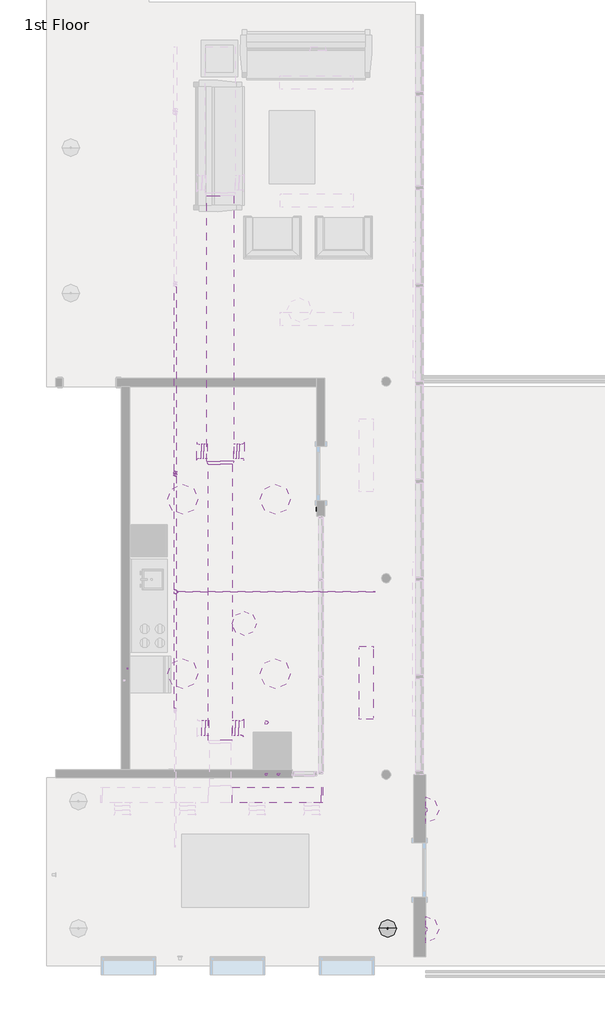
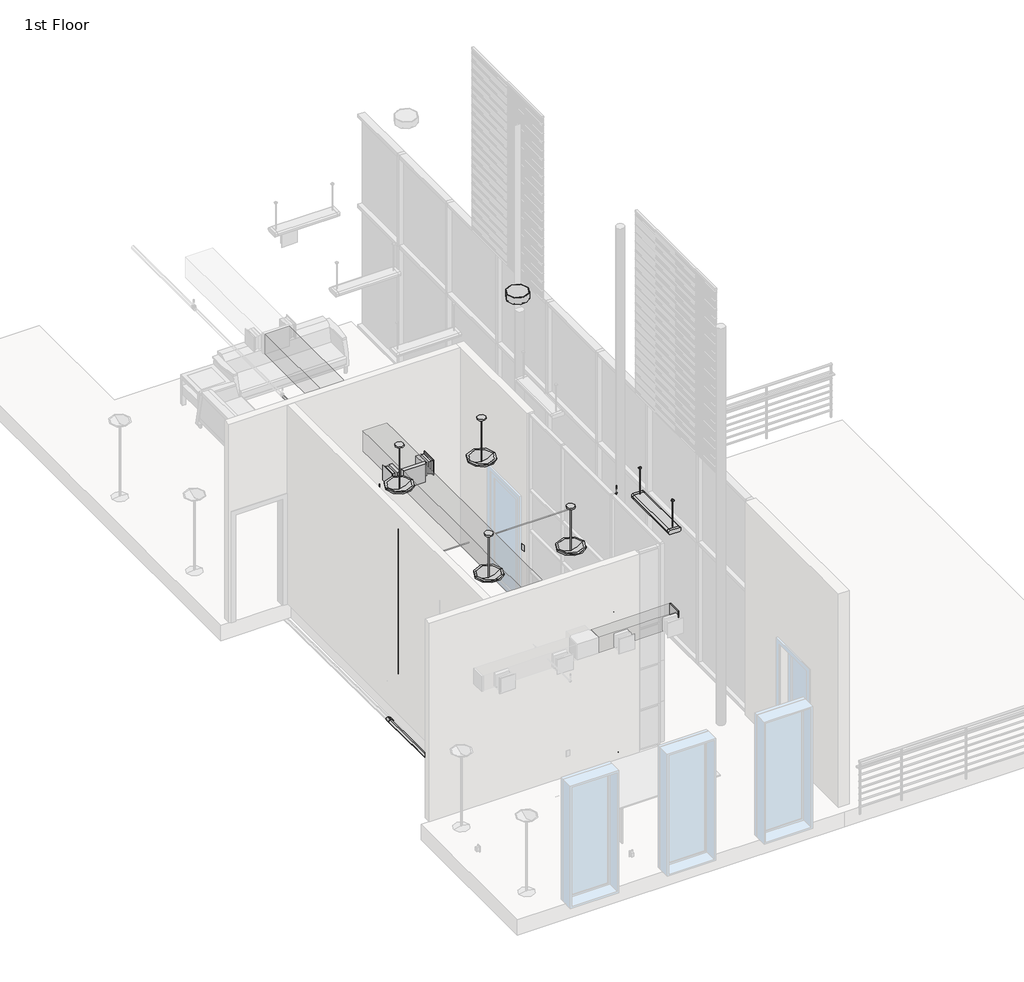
# One storey, part 3 of 4: 23 pipe fittings, 21 pipe segments, 9 light fixtures, 7 duct segments, 6 duct fittings, 3 air terminals, 3 proxies, 2 fire suppression terminals, 2 switching devices.
"""IFC4 building model written with IfcOpenShell, lengths in millimetres."""

from ifc_helpers import new_model, si_unit, point, frame, frame_2d, origin, place, context, project, spatial, polyline, circle_curve, trimmed, segment, composite_curve, outline, extrude, transform, mapped, element, save
from components import air_terminal_37217d21, air_terminal_0139ce82, receptacle_gfci_367a9a66, rectangular_duct_endcap_standard_df86e6dc, rectangular_duct_takeoff_sidewall_standard_8ecd27dc, rectangular_duct_takeoff_sidewall_standard_de4d9739, rectangular_duct_transition_standard_ec693d8a, fire_suppression_terminal_f250fbbb, light_fixture_120v_8a54b260, pendant_light_hemisphere_100w_120v_3_drop_98367d5d, light_fixture_b06bbfae, sconce_light_flat_round_100w_120v_d640190c, sconce_light_uplight_100w_120v_70b3641e, pipe_elbow_standard_3cd342b0, pipe_elbow1_standard_2_1c0ee581, pipe_elbow_standard_aad62f2d, pipe_elbow_standard_a25a5501, pipe_elbow1_standard_2_7266e7d7, pipe_pvc_bend_standard_82aeff72, pipe_pvc_bend_standard_45fed27a, pipe_pvc_short_sanitary_tee_standard_372b41e4, pipe_pvc_short_sanitary_tee1_standard_2_dea4ea5f, pipe_pvc_transition_eccentric1_standard_2_dc0409ef, pipe_pvc_transition_eccentric1_standard_2_7b6d9032, pipe_tee_standard_feafe2f1, pipe_tee_standard_7127fd44, pipe_tee_standard_60c871d1, pipe_transition_eccentric_standard_8de4c794, pipe_transition_eccentric_standard_48f40522, pipe_transition_eccentric_standard_4aeee749

model = new_model("IFC4")

# Units and contexts
model_context = context("Model", 3, world=origin())
ifc_project = project(units=[si_unit("LENGTHUNIT", "METRE", prefix="MILLI")], contexts=[model_context])

# Site, building, storey
site = spatial("IfcSite", under=ifc_project)
building = spatial("IfcBuilding", under=site)
storey = spatial("IfcBuildingStorey", under=building, Name="1st Floor", Elevation=3657.6)

# Air terminals
placement = place(None, origin())
air_terminal_shape = air_terminal_37217d21(model_context)
element("IfcAirTerminal", 1, ObjectType="Sidewall Diffuser : 10\" x 10\"", at=placement, inside=storey, context=model_context, shape_type="MappedRepresentation", body=[
    mapped(air_terminal_shape, transform((-1316.3183044, 1778.9147242, 6400.8), x_axis=(0.0, 1.0, 0.0), y_axis=(-1.0, 0.0, 0.0), z_axis=(0.0, 0.0, 1.0))),
])
element("IfcAirTerminal", 2, ObjectType="Sidewall Diffuser : 10\" x 10\"", at=placement, inside=storey, context=model_context, shape_type="MappedRepresentation", body=[
    mapped(air_terminal_shape, transform((-1323.6793944, -2854.6189983, 6400.8), x_axis=(0.0, 1.0, 0.0), y_axis=(-1.0, 0.0, 0.0), z_axis=(0.0, 0.0, 1.0))),
])
air_terminal_2_shape = air_terminal_0139ce82(model_context)
element("IfcAirTerminal", 3, ObjectType="Sidewall Diffuser : 10\" x 10\"", at=placement, inside=storey, context=model_context, shape_type="MappedRepresentation", body=[
    mapped(air_terminal_2_shape, transform((-2101.4384632, 1778.9147242, 6400.8), x_axis=(0.0, 1.0, 0.0), y_axis=(-1.0, 0.0, 0.0), z_axis=(0.0, 0.0, 1.0))),
])

# Proxies
receptacle_gfci_shape = receptacle_gfci_367a9a66(model_context)
element("IfcBuildingElementProxy", 4, Name="Receptacle : Standard", ObjectType="Receptacle : Standard", at=placement, inside=storey, context=model_context, shape_type="MappedRepresentation", body=[
    mapped(receptacle_gfci_shape, transform((-2536.6439612, 3000.0810017, 4114.8), x_axis=(-1.0, 0.0, 0.0), y_axis=(0.0, 0.0, 1.0), z_axis=(0.0, 1.0, 0.0))),
])
element("IfcBuildingElementProxy", 5, Name="Receptacle : Standard", ObjectType="Receptacle : Standard", at=placement, inside=storey, context=model_context, shape_type="MappedRepresentation", body=[
    mapped(receptacle_gfci_shape, transform((-3228.7939612, 1863.4310017, 4114.8), x_axis=(0.0, 1.0, 0.0), y_axis=(0.0, 0.0, 1.0), z_axis=(1.0, 0.0, 0.0))),
])
element("IfcBuildingElementProxy", 6, Name="Receptacle : Standard", ObjectType="Receptacle : Standard", at=placement, inside=storey, context=model_context, shape_type="MappedRepresentation", body=[
    mapped(receptacle_gfci_shape, transform((-3228.788311, -773.6284402, 4875.9916082), x_axis=(0.0, 1.0, 0.0), y_axis=(0.0, 0.0, 1.0), z_axis=(1.0, 0.0, 0.0))),
])

# Duct fittings
rectangular_duct_endcap_standard_shape = rectangular_duct_endcap_standard_df86e6dc(model_context)
element("IfcDuctFitting", 7, ObjectType="Rectangular Duct Endcap : Standard", at=placement, inside=storey, context=model_context, shape_type="MappedRepresentation", body=[
    mapped(rectangular_duct_endcap_standard_shape, transform((-18.8104947, -3978.5689983, 6400.8), x_axis=(1.0, 0.0, 0.0), y_axis=(0.0, 1.0, 0.0), z_axis=(0.0, 0.0, 1.0))),
])
rectangular_duct_takeoff_sidewall_standard_shape = rectangular_duct_takeoff_sidewall_standard_8ecd27dc(model_context)
element("IfcDuctFitting", 8, ObjectType="Rectangular Duct Takeoff - Sidewall : Standard", at=placement, inside=storey, context=model_context, shape_type="MappedRepresentation", body=[
    mapped(rectangular_duct_takeoff_sidewall_standard_shape, transform((-1480.2783838, 1778.9147242, 6400.8), x_axis=(1.0, 0.0, 0.0), y_axis=(0.0, -1.0, 0.0), z_axis=(0.0, 0.0, -1.0))),
])
element("IfcDuctFitting", 9, ObjectType="Rectangular Duct Takeoff - Sidewall : Standard", at=placement, inside=storey, context=model_context, shape_type="MappedRepresentation", body=[
    mapped(rectangular_duct_takeoff_sidewall_standard_shape, transform((-1505.6783838, -2854.6189983, 6400.8), x_axis=(1.0, 0.0, 0.0), y_axis=(0.0, -1.0, 0.0), z_axis=(0.0, 0.0, -1.0))),
])
rectangular_duct_takeoff_sidewall_standard_2_shape = rectangular_duct_takeoff_sidewall_standard_de4d9739(model_context)
element("IfcDuctFitting", 10, ObjectType="Rectangular Duct Takeoff - Sidewall : Standard", at=placement, inside=storey, context=model_context, shape_type="MappedRepresentation", body=[
    mapped(rectangular_duct_takeoff_sidewall_standard_2_shape, transform((-1912.0783838, -2854.6189983, 6400.8), x_axis=(-1.0, 0.0, 0.0), y_axis=(0.0, 1.0, 0.0), z_axis=(0.0, 0.0, -1.0))),
])
element("IfcDuctFitting", 11, ObjectType="Rectangular Duct Takeoff - Sidewall : Standard", at=placement, inside=storey, context=model_context, shape_type="MappedRepresentation", body=[
    mapped(rectangular_duct_takeoff_sidewall_standard_2_shape, transform((-1937.4783838, 1778.9147242, 6400.8), x_axis=(-1.0, 0.0, 0.0), y_axis=(0.0, 1.0, 0.0), z_axis=(0.0, 0.0, -1.0))),
])
rectangular_duct_transition_standard_shape = rectangular_duct_transition_standard_ec693d8a(model_context)
element("IfcDuctFitting", 12, ObjectType="Rectangular Duct Transition : Standard", at=placement, inside=storey, context=model_context, shape_type="MappedRepresentation", body=[
    mapped(rectangular_duct_transition_standard_shape, transform((-1708.8783838, 1612.3737868, 6400.8), x_axis=(0.0, -1.0, 0.0), y_axis=(1.0, 0.0, 0.0), z_axis=(0.0, 0.0, 1.0))),
])

# Duct segments
element("IfcDuctSegment", 13, ObjectType="Mitered Elbows / Taps", at=placement, inside=storey, context=model_context, shape_type="SweptSolid", body=[
    extrude(outline(polyline([(-1937.4783838, 6057.3737868), (-1480.2783838, 6057.3737868), (-1480.2783838, 1612.3737868), (-1937.4783838, 1612.3737868), (-1937.4783838, 6057.3737868)])), frame((0.0, 0.0, 6197.6), z_axis=(0.0, 0.0, 1.0), x_axis=(1.0, 0.0, 0.0)), (0.0, 0.0, 1.0), 406.4),
])
element("IfcDuctSegment", 14, ObjectType="Mitered Elbows / Taps", at=placement, inside=storey, context=model_context, shape_type="SweptSolid", body=[
    extrude(outline(polyline([(-1912.0783838, 1561.5737868), (-1505.6783838, 1561.5737868), (-1505.6783838, -3061.2262132), (-1912.0783838, -3061.2262132), (-1912.0783838, 1561.5737868)])), frame((0.0, 0.0, 6223.0), z_axis=(0.0, 0.0, 1.0), x_axis=(1.0, 0.0, 0.0)), (0.0, 0.0, 1.0), 355.6),
])
element("IfcDuctSegment", 15, ObjectType="Mitered Elbows / Taps Sidewall", at=placement, inside=storey, context=model_context, shape_type="SweptSolid", body=[
    extrude(outline(polyline([(-1429.4783838, 1651.9147242), (-1429.4783838, 1905.9147242), (-1392.5183044, 1905.9147242), (-1392.5183044, 1651.9147242), (-1429.4783838, 1651.9147242)])), frame((0.0, 0.0, 6273.8), z_axis=(0.0, 0.0, 1.0), x_axis=(1.0, 0.0, 0.0)), (0.0, 0.0, 1.0), 254.0),
])
element("IfcDuctSegment", 16, ObjectType="Mitered Elbows / Taps Sidewall", at=placement, inside=storey, context=model_context, shape_type="SweptSolid", body=[
    extrude(outline(polyline([(-2017.8773731, -2981.6189983), (-2017.8773731, -2727.6189983), (-1962.8783838, -2727.6189983), (-1962.8783838, -2981.6189983), (-2017.8773731, -2981.6189983)])), frame((0.0, 0.0, 6273.8), z_axis=(0.0, 0.0, 1.0), x_axis=(1.0, 0.0, 0.0)), (0.0, 0.0, 1.0), 254.0),
])
element("IfcDuctSegment", 17, ObjectType="Mitered Elbows / Taps Sidewall", at=placement, inside=storey, context=model_context, shape_type="SweptSolid", body=[
    extrude(outline(polyline([(-1399.8793944, -2727.6189983), (-1399.8793944, -2981.6189983), (-1454.8783838, -2981.6189983), (-1454.8783838, -2727.6189983), (-1399.8793944, -2727.6189983)])), frame((0.0, 0.0, 6273.8), z_axis=(0.0, 0.0, 1.0), x_axis=(1.0, 0.0, 0.0)), (0.0, 0.0, 1.0), 254.0),
])
element("IfcDuctSegment", 18, ObjectType="Mitered Elbows / Taps Sidewall", at=placement, inside=storey, context=model_context, shape_type="SweptSolid", body=[
    extrude(outline(polyline([(-1988.2783838, 1905.9147242), (-1988.2783838, 1651.9147242), (-2025.2384632, 1651.9147242), (-2025.2384632, 1905.9147242), (-1988.2783838, 1905.9147242)])), frame((0.0, 0.0, 6273.8), z_axis=(0.0, 0.0, 1.0), x_axis=(1.0, 0.0, 0.0)), (0.0, 0.0, 1.0), 254.0),
])
element("IfcDuctSegment", 19, ObjectType="Radius Elbows / Tees", at=placement, inside=storey, context=model_context, shape_type="SweptSolid", body=[
    extrude(outline(polyline([(-1505.6783838, -4105.5689983), (-1505.6783838, -3851.5689983), (-18.8104947, -3851.5689983), (-18.8104947, -4105.5689983), (-1505.6783838, -4105.5689983)])), frame((0.0, 0.0, 6248.4), z_axis=(0.0, 0.0, 1.0), x_axis=(1.0, 0.0, 0.0)), (0.0, 0.0, 1.0), 304.8),
])

# Fire suppression terminals
fire_suppression_terminal_shape = fire_suppression_terminal_f250fbbb(model_context)
element("IfcFireSuppressionTerminal", 20, ObjectType="Sprinkler - Upright : 1/2\" Upright", at=placement, inside=storey, context=model_context, shape_type="MappedRepresentation", body=[
    mapped(fire_suppression_terminal_shape, transform((-2463.5604947, 1406.2310017, 6553.2), x_axis=(1.0, 0.0, 0.0), y_axis=(0.0, 1.0, 0.0), z_axis=(0.0, 0.0, 1.0))),
])
element("IfcFireSuppressionTerminal", 21, ObjectType="Sprinkler - Upright : 1/2\" Upright", at=placement, inside=storey, context=model_context, shape_type="MappedRepresentation", body=[
    mapped(fire_suppression_terminal_shape, transform((866.9560388, -574.9689983, 6553.2), x_axis=(1.0, 0.0, 0.0), y_axis=(0.0, 1.0, 0.0), z_axis=(0.0, 0.0, 1.0))),
])

# Light fixtures
light_fixture_120v_shape = light_fixture_120v_8a54b260(model_context)
element("IfcLightFixture", 22, ObjectType="Floor Lamp - Torchiere : 120V", at=placement, inside=storey, context=model_context, shape_type="MappedRepresentation", body=[
    mapped(light_fixture_120v_shape, transform((1095.5560388, -6213.7689983, 3657.6), x_axis=(1.0, 0.0, 0.0), y_axis=(0.0, 1.0, 0.0), z_axis=(0.0, 0.0, 1.0))),
])
pendant_light_hemisphere_100w_120v_3_drop_shape = pendant_light_hemisphere_100w_120v_3_drop_98367d5d(model_context)
element("IfcLightFixture", 23, ObjectType="Pendant Light - Hemisphere : 100W - 120V - 3' Drop", at=placement, inside=storey, context=model_context, shape_type="MappedRepresentation", body=[
    mapped(pendant_light_hemisphere_100w_120v_3_drop_shape, transform((-2336.5604947, 974.4310017, 7620.0), x_axis=(1.0, 0.0, 0.0), y_axis=(0.0, -1.0, 0.0), z_axis=(0.0, 0.0, -1.0))),
])
element("IfcLightFixture", 24, ObjectType="Pendant Light - Hemisphere : 100W - 120V - 3' Drop", at=placement, inside=storey, context=model_context, shape_type="MappedRepresentation", body=[
    mapped(pendant_light_hemisphere_100w_120v_3_drop_shape, transform((-787.1604947, 974.4310017, 7620.0), x_axis=(1.0, 0.0, 0.0), y_axis=(0.0, -1.0, 0.0), z_axis=(0.0, 0.0, -1.0))),
])
element("IfcLightFixture", 25, ObjectType="Pendant Light - Hemisphere : 100W - 120V - 3' Drop", at=placement, inside=storey, context=model_context, shape_type="MappedRepresentation", body=[
    mapped(pendant_light_hemisphere_100w_120v_3_drop_shape, transform((-2336.5604947, -1946.5689983, 7620.0), x_axis=(1.0, 0.0, 0.0), y_axis=(0.0, -1.0, 0.0), z_axis=(0.0, 0.0, -1.0))),
])
element("IfcLightFixture", 26, ObjectType="Pendant Light - Hemisphere : 100W - 120V - 3' Drop", at=placement, inside=storey, context=model_context, shape_type="MappedRepresentation", body=[
    mapped(pendant_light_hemisphere_100w_120v_3_drop_shape, transform((-787.1604947, -1946.5689983, 7620.0), x_axis=(1.0, 0.0, 0.0), y_axis=(0.0, -1.0, 0.0), z_axis=(0.0, 0.0, -1.0))),
])
light_fixture_shape = light_fixture_b06bbfae(model_context)
element("IfcLightFixture", 27, ObjectType="Pendant Light - Linear - 2 Lamp : 48\" - 120V", at=placement, inside=storey, context=model_context, shape_type="MappedRepresentation", body=[
    mapped(light_fixture_shape, transform((736.8395053, -2098.9689983, 7620.0), x_axis=(0.0, -1.0, 0.0), y_axis=(-1.0, 0.0, 0.0), z_axis=(0.0, 0.0, -1.0))),
])
sconce_light_flat_round_100w_120v_shape = sconce_light_flat_round_100w_120v_d640190c(model_context)
element("IfcLightFixture", 28, ObjectType="Sconce Light - Flat Round : 60W - 120V", at=placement, inside=storey, context=model_context, shape_type="MappedRepresentation", body=[
    mapped(sconce_light_flat_round_100w_120v_shape, transform((-1306.9998743, -1107.0471, 11582.4), x_axis=(-1.0, 0.0, 0.0), y_axis=(0.0, 1.0, 0.0), z_axis=(0.0, 0.0, -1.0))),
])
sconce_light_uplight_100w_120v_shape = sconce_light_uplight_100w_120v_70b3641e(model_context)
element("IfcLightFixture", 29, ObjectType="Sconce Light - Uplight : 100W - 120V", at=placement, inside=storey, context=model_context, shape_type="MappedRepresentation", body=[
    mapped(sconce_light_uplight_100w_120v_shape, transform((1730.5560388, -4232.5689983, 5588.0), x_axis=(0.0, 1.0, 0.0), y_axis=(0.0, 0.0, 1.0), z_axis=(1.0, 0.0, 0.0))),
])
element("IfcLightFixture", 30, ObjectType="Sconce Light - Uplight : 100W - 120V", at=placement, inside=storey, context=model_context, shape_type="MappedRepresentation", body=[
    mapped(sconce_light_uplight_100w_120v_shape, transform((1730.5560388, -6227.340357, 5588.0), x_axis=(0.0, 1.0, 0.0), y_axis=(0.0, 0.0, 1.0), z_axis=(1.0, 0.0, 0.0))),
])

# Pipe fittings
pipe_elbow_standard_shape = pipe_elbow_standard_3cd342b0(model_context)
element("IfcPipeFitting", 31, ObjectType="Pipe Elbow : Standard", at=placement, inside=storey, context=model_context, shape_type="MappedRepresentation", body=[
    mapped(pipe_elbow_standard_shape, transform((-3324.0439612, -706.809107, 4388.4453125), x_axis=(0.0, 0.0, -1.0), y_axis=(1.0, 0.0, 0.0), z_axis=(0.0, -1.0, 0.0))),
])
pipe_elbow1_standard_2_shape = pipe_elbow1_standard_2_1c0ee581(model_context)
element("IfcPipeFitting", 32, ObjectType="Pipe Elbow1 : Standard 2", at=placement, inside=storey, context=model_context, shape_type="MappedRepresentation", body=[
    mapped(pipe_elbow1_standard_2_shape, transform((-835.4540974, -3638.7114839, 3759.7608866), x_axis=(0.0, 0.0, 1.0), y_axis=(0.0, 1.0, 0.0), z_axis=(-1.0, 0.0, 0.0))),
])
pipe_elbow_standard_2_shape = pipe_elbow_standard_aad62f2d(model_context)
element("IfcPipeFitting", 33, ObjectType="Pipe Elbow1 : Standard 2", at=placement, inside=storey, context=model_context, shape_type="MappedRepresentation", body=[
    mapped(pipe_elbow_standard_2_shape, transform((-3260.5439612, -503.609107, 4388.6291082), x_axis=(0.0, 0.0, -1.0), y_axis=(1.0, 0.0, 0.0), z_axis=(0.0, -1.0, 0.0))),
])
element("IfcPipeFitting", 34, ObjectType="Pipe Elbow1 : Standard 2", at=placement, inside=storey, context=model_context, shape_type="MappedRepresentation", body=[
    mapped(pipe_elbow_standard_2_shape, transform((-3260.5439612, -1861.6991823, 3962.4), x_axis=(0.0, 0.0, -1.0), y_axis=(1.0, 0.0, 0.0), z_axis=(0.0, -1.0, 0.0))),
])
element("IfcPipeFitting", 35, ObjectType="Pipe Elbow1 : Standard 2", at=placement, inside=storey, context=model_context, shape_type="MappedRepresentation", body=[
    mapped(pipe_elbow_standard_2_shape, transform((-3260.5439612, -1861.6991823, 6604.0), x_axis=(0.0, 0.0, 1.0), y_axis=(0.0, 1.0, 0.0), z_axis=(-1.0, 0.0, 0.0))),
])
element("IfcPipeFitting", 36, ObjectType="Pipe Elbow1 : Standard 2", at=placement, inside=storey, context=model_context, shape_type="MappedRepresentation", body=[
    mapped(pipe_elbow_standard_2_shape, transform((866.9560388, -574.9689983, 6451.6), x_axis=(0.0, 0.0, -1.0), y_axis=(-1.0, 0.0, 0.0), z_axis=(0.0, 1.0, 0.0))),
])
pipe_elbow_standard_3_shape = pipe_elbow_standard_a25a5501(model_context)
element("IfcPipeFitting", 37, ObjectType="Pipe Elbow1 : Standard 2", at=placement, inside=storey, context=model_context, shape_type="MappedRepresentation", body=[
    mapped(pipe_elbow_standard_3_shape, transform((-937.0514215, -3636.540357, 4267.2), x_axis=(0.0, 0.0, -1.0), y_axis=(0.0, 1.0, 0.0), z_axis=(1.0, 0.0, 0.0))),
])
element("IfcPipeFitting", 38, ObjectType="Pipe Elbow1 : Standard 2", at=placement, inside=storey, context=model_context, shape_type="MappedRepresentation", body=[
    mapped(pipe_elbow_standard_3_shape, transform((-733.8514215, -3636.540357, 6705.6), x_axis=(0.0, 0.0, 1.0), y_axis=(0.0, 1.0, 0.0), z_axis=(-1.0, 0.0, 0.0))),
])
element("IfcPipeFitting", 39, ObjectType="Pipe Elbow1 : Standard 2", at=placement, inside=storey, context=model_context, shape_type="MappedRepresentation", body=[
    mapped(pipe_elbow_standard_3_shape, transform((-733.8514215, -3636.540357, 4267.2), x_axis=(0.0, 0.0, -1.0), y_axis=(0.0, 1.0, 0.0), z_axis=(1.0, 0.0, 0.0))),
])
element("IfcPipeFitting", 40, ObjectType="Pipe Elbow1 : Standard 2", at=placement, inside=storey, context=model_context, shape_type="MappedRepresentation", body=[
    mapped(pipe_elbow_standard_3_shape, transform((-937.0514215, -3636.540357, 6604.0), x_axis=(0.0, 0.0, 1.0), y_axis=(0.0, 1.0, 0.0), z_axis=(-1.0, 0.0, 0.0))),
])
pipe_elbow1_standard_2_2_shape = pipe_elbow1_standard_2_7266e7d7(model_context)
element("IfcPipeFitting", 41, ObjectType="Pipe Elbow1 : Standard 2", at=placement, inside=storey, context=model_context, shape_type="MappedRepresentation", body=[
    mapped(pipe_elbow1_standard_2_2_shape, transform((-835.4540926, -3638.7114887, 3321.5687312), x_axis=(0.0, 0.0, -1.0), y_axis=(-0.9999999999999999, 0.0, 0.0), z_axis=(0.0, 0.9999999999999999, 0.0))),
])
pipe_pvc_bend_standard_shape = pipe_pvc_bend_standard_82aeff72(model_context)
element("IfcPipeFitting", 42, ObjectType="Pipe PVC Bend : Standard", at=placement, inside=storey, context=model_context, shape_type="MappedRepresentation", body=[
    mapped(pipe_pvc_bend_standard_shape, transform((-3298.6295589, -1960.1220659, 3759.2), x_axis=(0.0, 0.0, 1.0), y_axis=(1.0, 0.0, 0.0), z_axis=(0.0, 1.0, 0.0))),
])
pipe_pvc_bend_standard_2_shape = pipe_pvc_bend_standard_45fed27a(model_context)
element("IfcPipeFitting", 43, ObjectType="Pipe PVC Bend : Standard", at=placement, inside=storey, context=model_context, shape_type="MappedRepresentation", body=[
    mapped(pipe_pvc_bend_standard_2_shape, transform((-2860.488311, -367.0681536, 3266.362851), x_axis=(0.0, 0.0, -1.0), y_axis=(-1.0, 0.0, 0.0), z_axis=(0.0, 1.0, 0.0))),
])
pipe_pvc_short_sanitary_tee_standard_shape = pipe_pvc_short_sanitary_tee_standard_372b41e4(model_context)
element("IfcPipeFitting", 44, ObjectType="Pipe PVC Short Sanitary Tee : Standard", at=placement, inside=storey, context=model_context, shape_type="MappedRepresentation", body=[
    mapped(pipe_pvc_short_sanitary_tee_standard_shape, transform((-3298.6295637, -367.0681536, 3261.7988826), x_axis=(0.0, -0.9999457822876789, 0.010413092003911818), y_axis=(0.9999618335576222, 9.097695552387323e-05, 0.00873631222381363), z_axis=(-0.008736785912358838, 0.010412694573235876, 0.9999076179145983))),
])
pipe_pvc_short_sanitary_tee1_standard_2_shape = pipe_pvc_short_sanitary_tee1_standard_2_dea4ea5f(model_context)
element("IfcPipeFitting", 45, ObjectType="Pipe PVC Short Sanitary Tee1 : Standard 2", at=placement, inside=storey, context=model_context, shape_type="MappedRepresentation", body=[
    mapped(pipe_pvc_short_sanitary_tee1_standard_2_shape, transform((-3298.6295637, -1960.1220707, 3278.3883991), x_axis=(0.0, -0.9999457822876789, 0.010413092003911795), y_axis=(0.0, 0.010413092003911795, 0.9999457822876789), z_axis=(-1.0, 0.0, 0.0))),
])
pipe_pvc_transition_eccentric1_standard_2_shape = pipe_pvc_transition_eccentric1_standard_2_dc0409ef(model_context)
element("IfcPipeFitting", 46, ObjectType="Pipe PVC Transition Eccentric1 : Standard 2", at=placement, inside=storey, context=model_context, shape_type="MappedRepresentation", body=[
    mapped(pipe_pvc_transition_eccentric1_standard_2_shape, transform((-2772.032811, -367.0681536, 3309.195963), x_axis=(0.0, 0.0, -1.0), y_axis=(1.0, 0.0, 0.0), z_axis=(0.0, -1.0, 0.0))),
])
pipe_pvc_transition_eccentric1_standard_2_2_shape = pipe_pvc_transition_eccentric1_standard_2_7b6d9032(model_context)
element("IfcPipeFitting", 47, ObjectType="Pipe PVC Transition Eccentric1 : Standard 2", at=placement, inside=storey, context=model_context, shape_type="MappedRepresentation", body=[
    mapped(pipe_pvc_transition_eccentric1_standard_2_2_shape, transform((-3239.8924279, -287.6974568, 3261.4855646), x_axis=(0.9999618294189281, 0.0, 0.008737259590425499), y_axis=(9.097841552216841e-05, 0.9999457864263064, -0.010412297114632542), z_axis=(-0.008736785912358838, 0.010412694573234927, 0.9999076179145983))),
])
pipe_tee_standard_shape = pipe_tee_standard_feafe2f1(model_context)
element("IfcPipeFitting", 48, ObjectType="Pipe Tee : Standard", at=placement, inside=storey, context=model_context, shape_type="MappedRepresentation", body=[
    mapped(pipe_tee_standard_shape, transform((-937.0514215, -2761.2999309, 6604.0), x_axis=(0.0, 1.0, 0.0), y_axis=(-1.0, 0.0, 0.0), z_axis=(0.0, 0.0, 1.0))),
])
pipe_tee_standard_2_shape = pipe_tee_standard_7127fd44(model_context)
element("IfcPipeFitting", 49, ObjectType="Pipe Tee : Standard", at=placement, inside=storey, context=model_context, shape_type="MappedRepresentation", body=[
    mapped(pipe_tee_standard_2_shape, transform((-2463.5604947, 1406.2310017, 6451.6), x_axis=(0.0, -1.0, 0.0), y_axis=(0.0, 0.0, -1.0), z_axis=(1.0, 0.0, 0.0))),
])
pipe_tee_standard_3_shape = pipe_tee_standard_60c871d1(model_context)
element("IfcPipeFitting", 50, ObjectType="Pipe Tee : Standard", at=placement, inside=storey, context=model_context, shape_type="MappedRepresentation", body=[
    mapped(pipe_tee_standard_3_shape, transform((-2463.5604947, -574.9689983, 6451.6), x_axis=(0.0, -1.0, 0.0), y_axis=(-1.0, 0.0, 0.0), z_axis=(0.0, 0.0, -1.0))),
])
pipe_transition_eccentric_standard_shape = pipe_transition_eccentric_standard_8de4c794(model_context)
element("IfcPipeFitting", 51, ObjectType="Pipe Transition Eccentric : Standard", at=placement, inside=storey, context=model_context, shape_type="MappedRepresentation", body=[
    mapped(pipe_transition_eccentric_standard_shape, transform((-2430.2229947, -574.9689983, 6451.6), x_axis=(1.0, 0.0, 0.0), y_axis=(0.0, -1.0, 0.0), z_axis=(0.0, 0.0, -1.0))),
])
pipe_transition_eccentric_standard_2_shape = pipe_transition_eccentric_standard_48f40522(model_context)
element("IfcPipeFitting", 52, ObjectType="Pipe Transition Eccentric : Standard", at=placement, inside=storey, context=model_context, shape_type="MappedRepresentation", body=[
    mapped(pipe_transition_eccentric_standard_2_shape, transform((-2463.5604947, 1369.7185017, 6451.6), x_axis=(0.0, -1.0, 0.0), y_axis=(1.0, 0.0, 0.0), z_axis=(0.0, 0.0, 1.0))),
])
pipe_transition_eccentric_standard_3_shape = pipe_transition_eccentric_standard_4aeee749(model_context)
element("IfcPipeFitting", 53, ObjectType="Pipe Transition Eccentric : Standard", at=placement, inside=storey, context=model_context, shape_type="MappedRepresentation", body=[
    mapped(pipe_transition_eccentric_standard_3_shape, transform((-2463.5604947, 1406.2310017, 6488.1125), x_axis=(0.0, 0.0, 1.0), y_axis=(0.0, -1.0, 0.0), z_axis=(1.0, 0.0, 0.0))),
])

# Pipe segments
element("IfcPipeSegment", 54, ObjectType="PVC", at=placement, inside=storey, context=model_context, shape_type="SweptSolid", body=[
    extrude(outline(composite_curve([segment(trimmed(circle_curve(frame_2d((0.0, -30.1625)), 30.1625), [point((-30.1625, -30.1625))], [point((0.0, 0.0))], False, "CARTESIAN"), True, "CONTINUOUS"), segment(trimmed(circle_curve(frame_2d((0.0, -30.1625)), 30.1625), [point((0.0, 0.0))], [point((30.1625, -30.1625))], False, "CARTESIAN"), True, "CONTINUOUS"), segment(trimmed(circle_curve(frame_2d((0.0, -30.1625)), 30.1625), [point((30.1625, -30.1625))], [point((0.0, -60.325))], False, "CARTESIAN"), True, "CONTINUOUS"), segment(trimmed(circle_curve(frame_2d((0.0, -30.1625)), 30.1625), [point((0.0, -60.325))], [point((-30.1625, -30.1625))], False, "CARTESIAN"), True, "CONTINUOUS")], self_intersect=False)), frame((-3298.6295637, -1990.2845707, 3336.5174121), z_axis=(1.2701688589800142e-08, 1.2698167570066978e-08, 1.0), x_axis=(-1.0, 0.0, 1.2701688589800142e-08)), (0.0, 0.0, 1.0), 376.6450883),
])
element("IfcPipeSegment", 55, ObjectType="PVC", at=placement, inside=storey, context=model_context, shape_type="SweptSolid", body=[
    extrude(outline(composite_curve([segment(trimmed(circle_curve(frame_2d((0.0, -16.7005)), 16.7005), [point((0.0, 0.0))], [point((16.7005001, -16.7005))], False, "CARTESIAN"), True, "CONTINUOUS"), segment(trimmed(circle_curve(frame_2d((0.0, -16.7005)), 16.7005), [point((16.7005001, -16.7005))], [point((0.0, -33.401))], False, "CARTESIAN"), True, "CONTINUOUS"), segment(trimmed(circle_curve(frame_2d((0.0, -16.7005)), 16.7005), [point((0.0, -33.401))], [point((-16.7005, -16.7005))], False, "CARTESIAN"), True, "CONTINUOUS"), segment(trimmed(circle_curve(frame_2d((0.0, -16.7005)), 16.7005), [point((-16.7005, -16.7005))], [point((0.0, 0.0))], False, "CARTESIAN"), True, "CONTINUOUS")], self_intersect=False)), frame((-3224.8254025, -350.3676536, 3263.1794218), z_axis=(0.9999618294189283, 0.0, 0.008737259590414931), x_axis=(0.008737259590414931, 0.0, -0.9999618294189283)), (0.0, 0.0, 1.0), 332.058887),
])
element("IfcPipeSegment", 56, ObjectType="PVC", at=placement, inside=storey, context=model_context, shape_type="SweptSolid", body=[
    extrude(outline(composite_curve([segment(trimmed(circle_curve(frame_2d((0.0, -21.082)), 21.082), [point((-21.082, -21.082))], [point((0.0, 0.0))], False, "CARTESIAN"), True, "CONTINUOUS"), segment(trimmed(circle_curve(frame_2d((0.0, -21.082)), 21.082), [point((0.0, 0.0))], [point((21.082, -21.082))], False, "CARTESIAN"), True, "CONTINUOUS"), segment(trimmed(circle_curve(frame_2d((0.0, -21.082)), 21.082), [point((21.082, -21.082))], [point((0.0, -42.164))], False, "CARTESIAN"), True, "CONTINUOUS"), segment(trimmed(circle_curve(frame_2d((0.0, -21.082)), 21.082), [point((0.0, -42.164))], [point((-21.082, -21.082))], False, "CARTESIAN"), True, "CONTINUOUS")], self_intersect=False)), frame((-2860.488311, -388.1501536, 3309.1956515), z_axis=(0.0, -1.4779424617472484e-05, 0.9999999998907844), x_axis=(-1.0, 0.0, 0.0)), (0.0, 0.0, 1.0), 1079.4331453),
])
element("IfcPipeSegment", 57, ObjectType="PVC", at=placement, inside=storey, context=model_context, shape_type="SweptSolid", body=[
    extrude(outline(composite_curve([segment(trimmed(circle_curve(frame_2d((0.0, -30.1625)), 30.1625), [point((30.1625, -30.1625))], [point((0.0, -60.325))], False, "CARTESIAN"), True, "CONTINUOUS"), segment(trimmed(circle_curve(frame_2d((0.0, -30.1625)), 30.1625), [point((0.0, -60.325))], [point((-30.1625, -30.1625))], False, "CARTESIAN"), True, "CONTINUOUS"), segment(trimmed(circle_curve(frame_2d((0.0, -30.1625)), 30.1625), [point((-30.1625, -30.1625))], [point((0.0, 0.0))], False, "CARTESIAN"), True, "CONTINUOUS"), segment(trimmed(circle_curve(frame_2d((0.0, -30.1625)), 30.1625), [point((0.0, 0.0))], [point((30.1625, -30.1625))], False, "CARTESIAN"), True, "CONTINUOUS")], self_intersect=False)), frame((-3298.6295637, -400.0951045, 3292.3069494), z_axis=(0.0, -0.9999457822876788, 0.010413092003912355), x_axis=(1.0, 0.0, 0.0)), (0.0, 0.0, 1.0), 1501.6684372),
])
element("IfcPipeSegment", 58, ObjectType="PVC", at=placement, inside=storey, context=model_context, shape_type="SweptSolid", body=[
    extrude(outline(composite_curve([segment(trimmed(circle_curve(frame_2d((-1960.1220659, 3759.2)), 30.1625), [point((-1990.2845659, 3759.2))], [point((-1960.1220659, 3789.3625))], False, "CARTESIAN"), True, "CONTINUOUS"), segment(trimmed(circle_curve(frame_2d((-1960.1220659, 3759.2)), 30.1625), [point((-1960.1220659, 3789.3625))], [point((-1929.9595659, 3759.2))], False, "CARTESIAN"), True, "CONTINUOUS"), segment(trimmed(circle_curve(frame_2d((-1960.1220659, 3759.2)), 30.1625), [point((-1929.9595659, 3759.2))], [point((-1960.1220659, 3729.0375))], False, "CARTESIAN"), True, "CONTINUOUS"), segment(trimmed(circle_curve(frame_2d((-1960.1220659, 3759.2)), 30.1625), [point((-1960.1220659, 3729.0375))], [point((-1990.2845659, 3759.2))], False, "CARTESIAN"), True, "CONTINUOUS")], self_intersect=False)), frame((-3252.5920589, 0.0, 0.0), z_axis=(1.0, 0.0, 0.0), x_axis=(0.0, 1.0, 0.0)), (0.0, 0.0, 1.0), 23.7980977),
])
element("IfcPipeSegment", 59, ObjectType="Standard", at=placement, inside=storey, context=model_context, shape_type="SweptSolid", body=[
    extrude(outline(composite_curve([segment(trimmed(circle_curve(frame_2d((-706.809107, 4388.6291082)), 7.9375), [point((-698.871607, 4388.6291082))], [point((-706.809107, 4380.6916082))], False, "CARTESIAN"), True, "CONTINUOUS"), segment(trimmed(circle_curve(frame_2d((-706.809107, 4388.6291082)), 7.9375), [point((-706.809107, 4380.6916082))], [point((-714.746607, 4388.6291082))], False, "CARTESIAN"), True, "CONTINUOUS"), segment(trimmed(circle_curve(frame_2d((-706.809107, 4388.6291082)), 7.9375), [point((-714.746607, 4388.6291082))], [point((-706.809107, 4396.5666082))], False, "CARTESIAN"), True, "CONTINUOUS"), segment(trimmed(circle_curve(frame_2d((-706.809107, 4388.6291082)), 7.9375), [point((-706.809107, 4396.5666082))], [point((-698.871607, 4388.6291082))], False, "CARTESIAN"), True, "CONTINUOUS")], self_intersect=False)), frame((-3306.39957, 0.0, 0.0), z_axis=(1.0, 0.0, 0.0), x_axis=(0.0, 1.0, 0.0)), (0.0, 0.0, 1.0), 77.6112616),
])
element("IfcPipeSegment", 60, ObjectType="Standard", at=placement, inside=storey, context=model_context, shape_type="SweptSolid", body=[
    extrude(outline(composite_curve([segment(trimmed(circle_curve(frame_2d((-3324.0439612, -706.809107)), 7.9375), [point((-3316.1064612, -706.809107))], [point((-3324.0439612, -714.746607))], False, "CARTESIAN"), True, "CONTINUOUS"), segment(trimmed(circle_curve(frame_2d((-3324.0439612, -706.809107)), 7.9375), [point((-3324.0439612, -714.746607))], [point((-3331.9814612, -706.809107))], False, "CARTESIAN"), True, "CONTINUOUS"), segment(trimmed(circle_curve(frame_2d((-3324.0439612, -706.809107)), 7.9375), [point((-3331.9814612, -706.809107))], [point((-3324.0439612, -698.871607))], False, "CARTESIAN"), True, "CONTINUOUS"), segment(trimmed(circle_curve(frame_2d((-3324.0439612, -706.809107)), 7.9375), [point((-3324.0439612, -698.871607))], [point((-3316.1064612, -706.809107))], False, "CARTESIAN"), True, "CONTINUOUS")], self_intersect=False)), frame((0.0, 0.0, 4406.0906609), z_axis=(0.0, 0.0, 1.0), x_axis=(1.0, 0.0, 0.0)), (0.0, 0.0, 1.0), 2885.2968391),
])
element("IfcPipeSegment", 61, ObjectType="Standard", at=placement, inside=storey, context=model_context, shape_type="SweptSolid", body=[
    extrude(outline(composite_curve([segment(trimmed(circle_curve(frame_2d((-733.8514215, -3636.540357)), 14.2875), [point((-719.5639215, -3636.540357))], [point((-733.8514215, -3650.827857))], False, "CARTESIAN"), True, "CONTINUOUS"), segment(trimmed(circle_curve(frame_2d((-733.8514215, -3636.540357)), 14.2875), [point((-733.8514215, -3650.827857))], [point((-748.1389215, -3636.540357))], False, "CARTESIAN"), True, "CONTINUOUS"), segment(trimmed(circle_curve(frame_2d((-733.8514215, -3636.540357)), 14.2875), [point((-748.1389215, -3636.540357))], [point((-733.8514215, -3622.252857))], False, "CARTESIAN"), True, "CONTINUOUS"), segment(trimmed(circle_curve(frame_2d((-733.8514215, -3636.540357)), 14.2875), [point((-733.8514215, -3622.252857))], [point((-719.5639215, -3636.540357))], False, "CARTESIAN"), True, "CONTINUOUS")], self_intersect=False)), frame((0.0, 0.0, 4291.0125), z_axis=(0.0, 0.0, 1.0), x_axis=(1.0, 0.0, 0.0)), (0.0, 0.0, 1.0), 2390.775),
])
element("IfcPipeSegment", 62, ObjectType="Standard", at=placement, inside=storey, context=model_context, shape_type="SweptSolid", body=[
    extrude(outline(composite_curve([segment(trimmed(circle_curve(frame_2d((0.0, -26.9874999)), 26.9875), [point((26.9875, -26.9874999))], [point((0.0, -53.975))], False, "CARTESIAN"), True, "CONTINUOUS"), segment(trimmed(circle_curve(frame_2d((0.0, -26.9874999)), 26.9875), [point((0.0, -53.975))], [point((-26.9875, -26.9874999))], False, "CARTESIAN"), True, "CONTINUOUS"), segment(trimmed(circle_curve(frame_2d((0.0, -26.9874999)), 26.9875), [point((-26.9875, -26.9874999))], [point((0.0, 0.0))], False, "CARTESIAN"), True, "CONTINUOUS"), segment(trimmed(circle_curve(frame_2d((0.0, -26.9874999)), 26.9875), [point((0.0, 0.0))], [point((26.9875, -26.9874999))], False, "CARTESIAN"), True, "CONTINUOUS")], self_intersect=False)), frame((-835.4540974, -3584.5878935, 3786.1860633), z_axis=(0.0, -0.9999457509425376, 0.010416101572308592), x_axis=(1.0, 0.0, 0.0)), (0.0, 0.0, 1.0), 16.9505876),
])
element("IfcPipeSegment", 63, ObjectType="Standard", at=placement, inside=storey, context=model_context, shape_type="SweptSolid", body=[
    extrude(outline(composite_curve([segment(trimmed(circle_curve(frame_2d((0.0, -26.9875)), 26.9875), [point((-26.9875, -26.9875))], [point((0.0, 0.0))], False, "CARTESIAN"), True, "CONTINUOUS"), segment(trimmed(circle_curve(frame_2d((0.0, -26.9875)), 26.9875), [point((0.0, 0.0))], [point((26.9875, -26.9875))], False, "CARTESIAN"), True, "CONTINUOUS"), segment(trimmed(circle_curve(frame_2d((0.0, -26.9875)), 26.9875), [point((26.9875, -26.9875))], [point((0.0, -53.975))], False, "CARTESIAN"), True, "CONTINUOUS"), segment(trimmed(circle_curve(frame_2d((0.0, -26.9875)), 26.9875), [point((0.0, -53.975))], [point((-26.9875, -26.9875))], False, "CARTESIAN"), True, "CONTINUOUS")], self_intersect=False)), frame((-835.4540926, -3665.6989887, 3357.7022594), z_axis=(-1.3119723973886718e-08, 1.3097405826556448e-08, 0.9999999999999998), x_axis=(-1.0, 0.0, -1.3119723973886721e-08)), (0.0, 0.0, 1.0), 365.1638081),
])
element("IfcPipeSegment", 64, ObjectType="Standard", at=placement, inside=storey, context=model_context, shape_type="SweptSolid", body=[
    extrude(outline(composite_curve([segment(trimmed(circle_curve(frame_2d((0.0, -7.9375)), 7.9375), [point((-7.9375, -7.9375))], [point((0.0, 0.0))], False, "CARTESIAN"), True, "CONTINUOUS"), segment(trimmed(circle_curve(frame_2d((0.0, -7.9375)), 7.9375), [point((0.0, 0.0))], [point((7.9375, -7.9375))], False, "CARTESIAN"), True, "CONTINUOUS"), segment(trimmed(circle_curve(frame_2d((0.0, -7.9375)), 7.9375), [point((7.9375, -7.9375))], [point((0.0, -15.875))], False, "CARTESIAN"), True, "CONTINUOUS"), segment(trimmed(circle_curve(frame_2d((0.0, -7.9375)), 7.9375), [point((0.0, -15.875))], [point((-7.9375, -7.9375))], False, "CARTESIAN"), True, "CONTINUOUS")], self_intersect=False)), frame((-3260.5439612, -511.546607, 4406.0916537), z_axis=(0.0, 5.73044799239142e-06, 0.999999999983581), x_axis=(-1.0, 0.0, 0.0)), (0.0, 0.0, 1.0), 2783.6958918),
])
element("IfcPipeSegment", 65, ObjectType="Standard", at=placement, inside=storey, context=model_context, shape_type="SweptSolid", body=[
    extrude(outline(composite_curve([segment(trimmed(circle_curve(frame_2d((-503.609107, 4388.6291082)), 7.9375), [point((-511.546607, 4388.6291082))], [point((-503.609107, 4396.5666082))], False, "CARTESIAN"), True, "CONTINUOUS"), segment(trimmed(circle_curve(frame_2d((-503.609107, 4388.6291082)), 7.9375), [point((-503.609107, 4396.5666082))], [point((-495.671607, 4388.6291082))], False, "CARTESIAN"), True, "CONTINUOUS"), segment(trimmed(circle_curve(frame_2d((-503.609107, 4388.6291082)), 7.9375), [point((-495.671607, 4388.6291082))], [point((-503.609107, 4380.6916082))], False, "CARTESIAN"), True, "CONTINUOUS"), segment(trimmed(circle_curve(frame_2d((-503.609107, 4388.6291082)), 7.9375), [point((-503.609107, 4380.6916082))], [point((-511.546607, 4388.6291082))], False, "CARTESIAN"), True, "CONTINUOUS")], self_intersect=False)), frame((-3243.0814612, 0.0, 0.0), z_axis=(1.0, 0.0, 0.0), x_axis=(0.0, 1.0, 0.0)), (0.0, 0.0, 1.0), 14.2931571),
])
element("IfcPipeSegment", 66, ObjectType="Standard", at=placement, inside=storey, context=model_context, shape_type="SweptSolid", body=[
    extrude(outline(composite_curve([segment(trimmed(circle_curve(frame_2d((0.0, -7.9375)), 7.9375), [point((-7.9375, -7.9375))], [point((0.0, 0.0))], False, "CARTESIAN"), True, "CONTINUOUS"), segment(trimmed(circle_curve(frame_2d((0.0, -7.9375)), 7.9375), [point((0.0, 0.0))], [point((7.9375, -7.9375))], False, "CARTESIAN"), True, "CONTINUOUS"), segment(trimmed(circle_curve(frame_2d((0.0, -7.9375)), 7.9375), [point((7.9375, -7.9375))], [point((0.0, -15.875))], False, "CARTESIAN"), True, "CONTINUOUS"), segment(trimmed(circle_curve(frame_2d((0.0, -7.9375)), 7.9375), [point((0.0, -15.875))], [point((-7.9375, -7.9375))], False, "CARTESIAN"), True, "CONTINUOUS")], self_intersect=False)), frame((-3243.0814612, -1861.6991823, 3954.4625), z_axis=(0.9999999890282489, 0.00014813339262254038, 1.3642420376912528e-12), x_axis=(0.00014813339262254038, -0.9999999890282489, 0.0)), (0.0, 0.0, 1.0), 14.2875002),
])
element("IfcPipeSegment", 67, ObjectType="Standard", at=placement, inside=storey, context=model_context, shape_type="SweptSolid", body=[
    extrude(outline(composite_curve([segment(trimmed(circle_curve(frame_2d((-3260.5439612, -1861.6991823)), 7.9375), [point((-3260.5439612, -1869.6366823))], [point((-3268.4814612, -1861.6991823))], False, "CARTESIAN"), True, "CONTINUOUS"), segment(trimmed(circle_curve(frame_2d((-3260.5439612, -1861.6991823)), 7.9375), [point((-3268.4814612, -1861.6991823))], [point((-3260.5439612, -1853.7616823))], False, "CARTESIAN"), True, "CONTINUOUS"), segment(trimmed(circle_curve(frame_2d((-3260.5439612, -1861.6991823)), 7.9375), [point((-3260.5439612, -1853.7616823))], [point((-3252.6064612, -1861.6991823))], False, "CARTESIAN"), True, "CONTINUOUS"), segment(trimmed(circle_curve(frame_2d((-3260.5439612, -1861.6991823)), 7.9375), [point((-3252.6064612, -1861.6991823))], [point((-3260.5439612, -1869.6366823))], False, "CARTESIAN"), True, "CONTINUOUS")], self_intersect=False)), frame((0.0, 0.0, 3979.8625), z_axis=(0.0, 0.0, 1.0), x_axis=(1.0, 0.0, 0.0)), (0.0, 0.0, 1.0), 2606.675),
])
element("IfcPipeSegment", 68, ObjectType="Standard", at=placement, inside=storey, context=model_context, shape_type="SweptSolid", body=[
    extrude(outline(composite_curve([segment(trimmed(circle_curve(frame_2d((4267.2, -733.8514215)), 14.2875), [point((4267.2, -748.1389215))], [point((4252.9125, -733.8514215))], False, "CARTESIAN"), True, "CONTINUOUS"), segment(trimmed(circle_curve(frame_2d((4267.2, -733.8514215)), 14.2875), [point((4252.9125, -733.8514215))], [point((4267.2, -719.5639215))], False, "CARTESIAN"), True, "CONTINUOUS"), segment(trimmed(circle_curve(frame_2d((4267.2, -733.8514215)), 14.2875), [point((4267.2, -719.5639215))], [point((4281.4875, -733.8514215))], False, "CARTESIAN"), True, "CONTINUOUS"), segment(trimmed(circle_curve(frame_2d((4267.2, -733.8514215)), 14.2875), [point((4281.4875, -733.8514215))], [point((4267.2, -748.1389215))], False, "CARTESIAN"), True, "CONTINUOUS")], self_intersect=False)), frame((0.0, -3612.727857, 0.0), z_axis=(0.0, 1.0, 0.0), x_axis=(0.0, 0.0, 1.0)), (0.0, 0.0, 1.0), 27.8588587),
])
element("IfcPipeSegment", 69, ObjectType="Standard", at=placement, inside=storey, context=model_context, shape_type="SweptSolid", body=[
    extrude(outline(composite_curve([segment(trimmed(circle_curve(frame_2d((6451.6, -2463.5604947)), 17.4625), [point((6451.6, -2481.0229947))], [point((6434.1375, -2463.5604947))], False, "CARTESIAN"), True, "CONTINUOUS"), segment(trimmed(circle_curve(frame_2d((6451.6, -2463.5604947)), 17.4625), [point((6434.1375, -2463.5604947))], [point((6451.6, -2446.0979947))], False, "CARTESIAN"), True, "CONTINUOUS"), segment(trimmed(circle_curve(frame_2d((6451.6, -2463.5604947)), 17.4625), [point((6451.6, -2446.0979947))], [point((6469.0625, -2463.5604947))], False, "CARTESIAN"), True, "CONTINUOUS"), segment(trimmed(circle_curve(frame_2d((6451.6, -2463.5604947)), 17.4625), [point((6469.0625, -2463.5604947))], [point((6451.6, -2481.0229947))], False, "CARTESIAN"), True, "CONTINUOUS")], self_intersect=False)), frame((0.0, -2522.8314983, 0.0), z_axis=(0.0, 1.0, 0.0), x_axis=(0.0, 0.0, 1.0)), (0.0, 0.0, 1.0), 1914.525),
])
element("IfcPipeSegment", 70, ObjectType="Standard", at=placement, inside=storey, context=model_context, shape_type="SweptSolid", body=[
    extrude(outline(composite_curve([segment(trimmed(circle_curve(frame_2d((-2463.5604947, 1406.2310017)), 7.9375), [point((-2471.4979947, 1406.2310017))], [point((-2463.5604947, 1414.1685017))], False, "CARTESIAN"), True, "CONTINUOUS"), segment(trimmed(circle_curve(frame_2d((-2463.5604947, 1406.2310017)), 7.9375), [point((-2463.5604947, 1414.1685017))], [point((-2455.6229947, 1406.2310017))], False, "CARTESIAN"), True, "CONTINUOUS"), segment(trimmed(circle_curve(frame_2d((-2463.5604947, 1406.2310017)), 7.9375), [point((-2455.6229947, 1406.2310017))], [point((-2463.5604947, 1398.2935017))], False, "CARTESIAN"), True, "CONTINUOUS"), segment(trimmed(circle_curve(frame_2d((-2463.5604947, 1406.2310017)), 7.9375), [point((-2463.5604947, 1398.2935017))], [point((-2471.4979947, 1406.2310017))], False, "CARTESIAN"), True, "CONTINUOUS")], self_intersect=False)), frame((0.0, 0.0, 6498.43125), z_axis=(0.0, 0.0, 1.0), x_axis=(1.0, 0.0, 0.0)), (0.0, 0.0, 1.0), 54.76875),
])
element("IfcPipeSegment", 71, ObjectType="Standard", at=placement, inside=storey, context=model_context, shape_type="SweptSolid", body=[
    extrude(outline(composite_curve([segment(trimmed(circle_curve(frame_2d((-574.9689983, 6451.6)), 7.9375), [point((-582.9064983, 6451.6))], [point((-574.9689983, 6459.5375))], False, "CARTESIAN"), True, "CONTINUOUS"), segment(trimmed(circle_curve(frame_2d((-574.9689983, 6451.6)), 7.9375), [point((-574.9689983, 6459.5375))], [point((-567.0314983, 6451.6))], False, "CARTESIAN"), True, "CONTINUOUS"), segment(trimmed(circle_curve(frame_2d((-574.9689983, 6451.6)), 7.9375), [point((-567.0314983, 6451.6))], [point((-574.9689983, 6443.6625))], False, "CARTESIAN"), True, "CONTINUOUS"), segment(trimmed(circle_curve(frame_2d((-574.9689983, 6451.6)), 7.9375), [point((-574.9689983, 6443.6625))], [point((-582.9064983, 6451.6))], False, "CARTESIAN"), True, "CONTINUOUS")], self_intersect=False)), frame((-2421.4917447, 0.0, 0.0), z_axis=(1.0, 0.0, 0.0), x_axis=(0.0, 1.0, 0.0)), (0.0, 0.0, 1.0), 3270.9852835),
])
element("IfcPipeSegment", 72, ObjectType="Standard", at=placement, inside=storey, context=model_context, shape_type="SweptSolid", body=[
    extrude(outline(composite_curve([segment(trimmed(circle_curve(frame_2d((866.9560388, -574.9689983)), 7.9375), [point((874.8935388, -574.9689983))], [point((866.9560388, -582.9064983))], False, "CARTESIAN"), True, "CONTINUOUS"), segment(trimmed(circle_curve(frame_2d((866.9560388, -574.9689983)), 7.9375), [point((866.9560388, -582.9064983))], [point((859.0185388, -574.9689983))], False, "CARTESIAN"), True, "CONTINUOUS"), segment(trimmed(circle_curve(frame_2d((866.9560388, -574.9689983)), 7.9375), [point((859.0185388, -574.9689983))], [point((866.9560388, -567.0314983))], False, "CARTESIAN"), True, "CONTINUOUS"), segment(trimmed(circle_curve(frame_2d((866.9560388, -574.9689983)), 7.9375), [point((866.9560388, -567.0314983))], [point((874.8935388, -574.9689983))], False, "CARTESIAN"), True, "CONTINUOUS")], self_intersect=False)), frame((0.0, 0.0, 6469.0625), z_axis=(0.0, 0.0, 1.0), x_axis=(1.0, 0.0, 0.0)), (0.0, 0.0, 1.0), 84.1375),
])
element("IfcPipeSegment", 73, ObjectType="Standard", at=placement, inside=storey, context=model_context, shape_type="SweptSolid", body=[
    extrude(outline(composite_curve([segment(trimmed(circle_curve(frame_2d((6451.6, -2463.5604947)), 20.6375), [point((6451.6, -2484.1979947))], [point((6430.9625, -2463.5604947))], False, "CARTESIAN"), True, "CONTINUOUS"), segment(trimmed(circle_curve(frame_2d((6451.6, -2463.5604947)), 20.6375), [point((6430.9625, -2463.5604947))], [point((6451.6, -2442.9229947))], False, "CARTESIAN"), True, "CONTINUOUS"), segment(trimmed(circle_curve(frame_2d((6451.6, -2463.5604947)), 20.6375), [point((6451.6, -2442.9229947))], [point((6472.2375, -2463.5604947))], False, "CARTESIAN"), True, "CONTINUOUS"), segment(trimmed(circle_curve(frame_2d((6451.6, -2463.5604947)), 20.6375), [point((6472.2375, -2463.5604947))], [point((6451.6, -2484.1979947))], False, "CARTESIAN"), True, "CONTINUOUS")], self_intersect=False)), frame((0.0, 1442.7435017, 0.0), z_axis=(0.0, 1.0, 0.0), x_axis=(0.0, 0.0, 1.0)), (0.0, 0.0, 1.0), 3101.1036413),
])
element("IfcPipeSegment", 74, ObjectType="Standard", at=placement, inside=storey, context=model_context, shape_type="SweptSolid", body=[
    extrude(outline(composite_curve([segment(trimmed(circle_curve(frame_2d((6451.6, -2463.5604947)), 17.4625), [point((6451.6, -2481.0229947))], [point((6434.1375, -2463.5604947))], False, "CARTESIAN"), True, "CONTINUOUS"), segment(trimmed(circle_curve(frame_2d((6451.6, -2463.5604947)), 17.4625), [point((6434.1375, -2463.5604947))], [point((6451.6, -2446.0979947))], False, "CARTESIAN"), True, "CONTINUOUS"), segment(trimmed(circle_curve(frame_2d((6451.6, -2463.5604947)), 17.4625), [point((6451.6, -2446.0979947))], [point((6469.0625, -2463.5604947))], False, "CARTESIAN"), True, "CONTINUOUS"), segment(trimmed(circle_curve(frame_2d((6451.6, -2463.5604947)), 17.4625), [point((6469.0625, -2463.5604947))], [point((6451.6, -2481.0229947))], False, "CARTESIAN"), True, "CONTINUOUS")], self_intersect=False)), frame((0.0, -541.6314983, 0.0), z_axis=(0.0, 1.0, 0.0), x_axis=(0.0, 0.0, 1.0)), (0.0, 0.0, 1.0), 1901.03125),
])

# Switching devices
element("IfcSwitchingDevice", 75, ObjectType="Lighting Switches : Single Pole", at=placement, inside=storey, context=model_context, shape_type="MappedRepresentation", body=[
    mapped(receptacle_gfci_shape, transform((-95.0104947, 810.01249, 4876.8), x_axis=(0.0, -1.0, 0.0), y_axis=(0.0, 0.0, 1.0), z_axis=(-1.0, 0.0, 0.0))),
])
element("IfcSwitchingDevice", 76, ObjectType="Thermostat : Sensor", at=placement, inside=storey, context=model_context, shape_type="MappedRepresentation", body=[
    mapped(receptacle_gfci_shape, transform((-2841.4439612, 3000.0810017, 4876.8), x_axis=(-1.0, 0.0, 0.0), y_axis=(0.0, 0.0, 1.0), z_axis=(0.0, 1.0, 0.0))),
])

save(model, "model.ifc")
